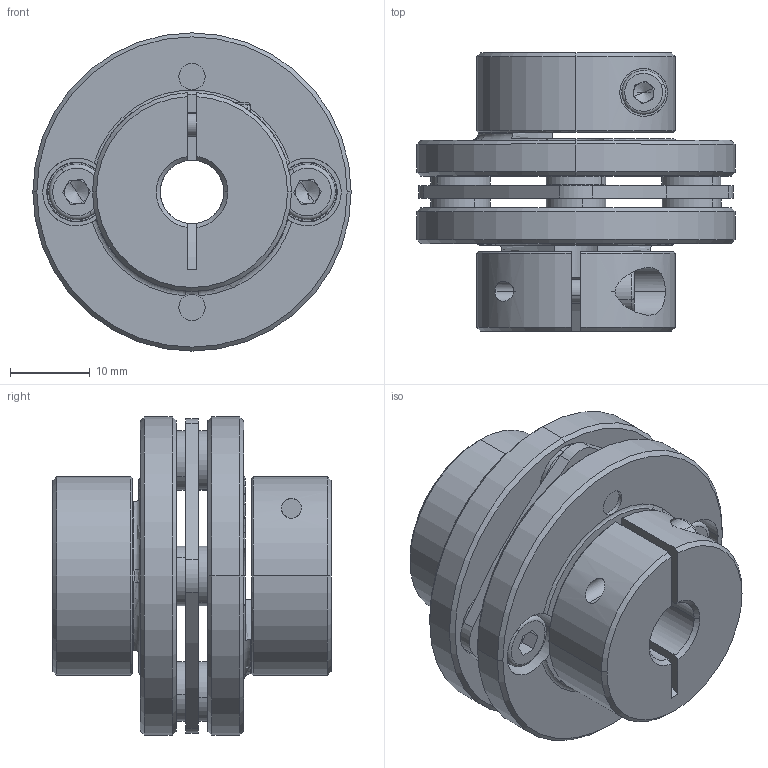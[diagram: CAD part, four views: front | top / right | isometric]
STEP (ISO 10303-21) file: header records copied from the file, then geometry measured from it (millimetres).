
FILE_DESCRIPTION (( 'STEP AP203' ), '1' );
FILE_NAME ('LE1-B-D40L35-8-8.STEP', '2021-11-01T02:08:33', ( '' ), ( '' ), 'SwSTEP 2.0', 'SolidWorks 2018', '' );
FILE_SCHEMA (( 'CONFIG_CONTROL_DESIGN' ));
Length unit declared in the file: millimetre
Products named in the file (1): LE1-B-D40L35-8-8
Bounding box: 40 x 35 x 40 mm (x, y, z)
Volume: 20424.7 mm3; surface area: 12791.5 mm2
Topology: 1 solids, 13 shells, 423 faces, 1021 edges, 630 vertices
Faces by surface type: cylinder 149, plane 140, cone 114, torus 18, bspline 2
Entity records: 12766 total; most frequent: CARTESIAN_POINT 2459, DIRECTION 2335, ORIENTED_EDGE 2018, EDGE_CURVE 1009, AXIS2_PLACEMENT_3D 952, VERTEX_POINT 630, CIRCLE 530, EDGE_LOOP 491
